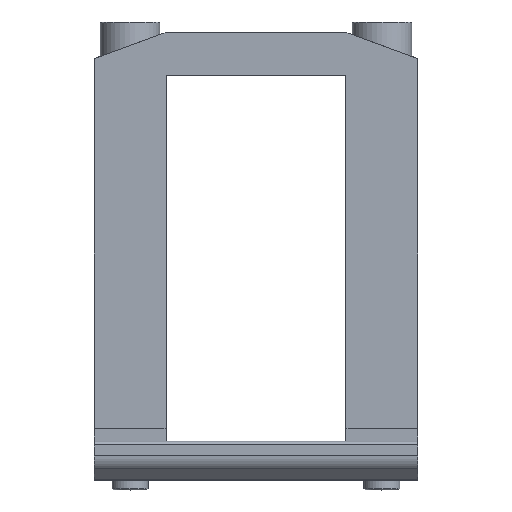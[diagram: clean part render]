
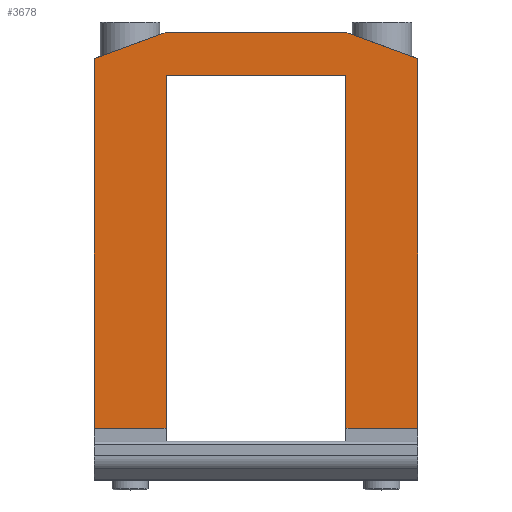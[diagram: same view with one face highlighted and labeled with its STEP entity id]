
A CAD part, top view. The second image highlights one B-rep face of the part: STEP entity #3678.
In plain terms, the highlighted planar face has unit normal (0, 0, 1).
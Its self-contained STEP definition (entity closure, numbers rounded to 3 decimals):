
#31 = EDGE_CURVE ( 'NONE', #2799, #6262, #6504, .T. ) ;
#218 = CARTESIAN_POINT ( 'NONE',  ( -51.169, -5.935, 7.089 ) ) ;
#222 = LINE ( 'NONE', #3689, #7540 ) ;
#499 = CARTESIAN_POINT ( 'NONE',  ( -16.169, 43.065, 7.089 ) ) ;
#857 = DIRECTION ( 'NONE',  ( 0., -1., 0. ) ) ;
#910 = DIRECTION ( 'NONE',  ( 1., 0., 0. ) ) ;
#919 = FACE_OUTER_BOUND ( 'NONE', #7525, .T. ) ;
#1036 = AXIS2_PLACEMENT_3D ( 'NONE', #8697, #5879, #1635 ) ;
#1131 = CARTESIAN_POINT ( 'NONE',  ( -41.169, 43.065, 7.089 ) ) ;
#1174 = DIRECTION ( 'NONE',  ( 0.94, -0.342, 0. ) ) ;
#1215 = ORIENTED_EDGE ( 'NONE', *, *, #5108, .F. ) ;
#1338 = LINE ( 'NONE', #7913, #8661 ) ;
#1400 = VERTEX_POINT ( 'NONE', #4590 ) ;
#1608 = DIRECTION ( 'NONE',  ( -1., 0., 0. ) ) ;
#1635 = DIRECTION ( 'NONE',  ( -1., 0., 0. ) ) ;
#1805 = DIRECTION ( 'NONE',  ( 0., -1., 0. ) ) ;
#1889 = CARTESIAN_POINT ( 'NONE',  ( -16.169, 49.065, 7.089 ) ) ;
#1936 = ORIENTED_EDGE ( 'NONE', *, *, #2189, .F. ) ;
#1963 = VECTOR ( 'NONE', #4333, 1000. ) ;
#2189 = EDGE_CURVE ( 'NONE', #6814, #6368, #4306, .T. ) ;
#2199 = VECTOR ( 'NONE', #7353, 1000. ) ;
#2277 = ORIENTED_EDGE ( 'NONE', *, *, #2548, .F. ) ;
#2315 = CARTESIAN_POINT ( 'NONE',  ( -16.169, 43.065, 7.089 ) ) ;
#2345 = CARTESIAN_POINT ( 'NONE',  ( -6.169, -5.935, 7.089 ) ) ;
#2378 = CARTESIAN_POINT ( 'NONE',  ( -51.169, 45.426, 7.089 ) ) ;
#2471 = VERTEX_POINT ( 'NONE', #499 ) ;
#2548 = EDGE_CURVE ( 'NONE', #6368, #2799, #6852, .T. ) ;
#2619 = CARTESIAN_POINT ( 'NONE',  ( -16.169, -5.935, 7.089 ) ) ;
#2789 = EDGE_CURVE ( 'NONE', #2471, #6814, #3396, .T. ) ;
#2799 = VERTEX_POINT ( 'NONE', #218 ) ;
#3173 = ORIENTED_EDGE ( 'NONE', *, *, #9067, .F. ) ;
#3396 = LINE ( 'NONE', #2315, #6960 ) ;
#3414 = ORIENTED_EDGE ( 'NONE', *, *, #6603, .F. ) ;
#3660 = ORIENTED_EDGE ( 'NONE', *, *, #8128, .F. ) ;
#3678 = ADVANCED_FACE ( 'NONE', ( #919 ), #5816, .F. ) ;
#3689 = CARTESIAN_POINT ( 'NONE',  ( -6.169, 45.426, 7.089 ) ) ;
#3854 = LINE ( 'NONE', #8575, #1963 ) ;
#4117 = VECTOR ( 'NONE', #7070, 1000. ) ;
#4306 = LINE ( 'NONE', #1131, #7857 ) ;
#4333 = DIRECTION ( 'NONE',  ( -1., 0., 0. ) ) ;
#4375 = ORIENTED_EDGE ( 'NONE', *, *, #8943, .F. ) ;
#4590 = CARTESIAN_POINT ( 'NONE',  ( -16.169, 49.065, 7.089 ) ) ;
#4754 = VECTOR ( 'NONE', #7781, 1000. ) ;
#4847 = DIRECTION ( 'NONE',  ( -1., 0., 0. ) ) ;
#4981 = VECTOR ( 'NONE', #4847, 1000. ) ;
#5108 = EDGE_CURVE ( 'NONE', #8193, #1400, #1338, .T. ) ;
#5201 = LINE ( 'NONE', #1889, #7081 ) ;
#5253 = ORIENTED_EDGE ( 'NONE', *, *, #31, .F. ) ;
#5316 = CARTESIAN_POINT ( 'NONE',  ( -41.169, 49.065, 7.089 ) ) ;
#5620 = EDGE_CURVE ( 'NONE', #5815, #6443, #222, .T. ) ;
#5800 = ORIENTED_EDGE ( 'NONE', *, *, #5620, .F. ) ;
#5815 = VERTEX_POINT ( 'NONE', #6099 ) ;
#5816 = PLANE ( 'NONE',  #1036 ) ;
#5879 = DIRECTION ( 'NONE',  ( 0., 0., -1. ) ) ;
#6099 = CARTESIAN_POINT ( 'NONE',  ( -6.169, 45.426, 7.089 ) ) ;
#6262 = VERTEX_POINT ( 'NONE', #7791 ) ;
#6368 = VERTEX_POINT ( 'NONE', #8612 ) ;
#6443 = VERTEX_POINT ( 'NONE', #2345 ) ;
#6504 = LINE ( 'NONE', #7814, #4117 ) ;
#6603 = EDGE_CURVE ( 'NONE', #1400, #5815, #5201, .T. ) ;
#6629 = LINE ( 'NONE', #7061, #4754 ) ;
#6814 = VERTEX_POINT ( 'NONE', #8482 ) ;
#6852 = LINE ( 'NONE', #9104, #4981 ) ;
#6960 = VECTOR ( 'NONE', #1608, 1000. ) ;
#7061 = CARTESIAN_POINT ( 'NONE',  ( -16.169, -7.735, 7.089 ) ) ;
#7070 = DIRECTION ( 'NONE',  ( 0., 1., 0. ) ) ;
#7081 = VECTOR ( 'NONE', #1174, 1000. ) ;
#7353 = DIRECTION ( 'NONE',  ( 0.94, 0.342, 0. ) ) ;
#7525 = EDGE_LOOP ( 'NONE', ( #4375, #3173, #5800, #3414, #1215, #3660, #5253, #2277, #1936, #7737 ) ) ;
#7540 = VECTOR ( 'NONE', #857, 1000. ) ;
#7737 = ORIENTED_EDGE ( 'NONE', *, *, #2789, .F. ) ;
#7781 = DIRECTION ( 'NONE',  ( 0., 1., 0. ) ) ;
#7791 = CARTESIAN_POINT ( 'NONE',  ( -51.169, 45.426, 7.089 ) ) ;
#7814 = CARTESIAN_POINT ( 'NONE',  ( -51.169, -7.735, 7.089 ) ) ;
#7857 = VECTOR ( 'NONE', #1805, 1000. ) ;
#7870 = LINE ( 'NONE', #2378, #2199 ) ;
#7913 = CARTESIAN_POINT ( 'NONE',  ( -41.169, 49.065, 7.089 ) ) ;
#8128 = EDGE_CURVE ( 'NONE', #6262, #8193, #7870, .T. ) ;
#8193 = VERTEX_POINT ( 'NONE', #5316 ) ;
#8324 = VERTEX_POINT ( 'NONE', #2619 ) ;
#8482 = CARTESIAN_POINT ( 'NONE',  ( -41.169, 43.065, 7.089 ) ) ;
#8575 = CARTESIAN_POINT ( 'NONE',  ( -6.169, -5.935, 7.089 ) ) ;
#8612 = CARTESIAN_POINT ( 'NONE',  ( -41.169, -5.935, 7.089 ) ) ;
#8661 = VECTOR ( 'NONE', #910, 1000. ) ;
#8697 = CARTESIAN_POINT ( 'NONE',  ( 0., 0., 7.089 ) ) ;
#8943 = EDGE_CURVE ( 'NONE', #8324, #2471, #6629, .T. ) ;
#9067 = EDGE_CURVE ( 'NONE', #6443, #8324, #3854, .T. ) ;
#9104 = CARTESIAN_POINT ( 'NONE',  ( -6.168, -5.935, 7.089 ) ) ;
